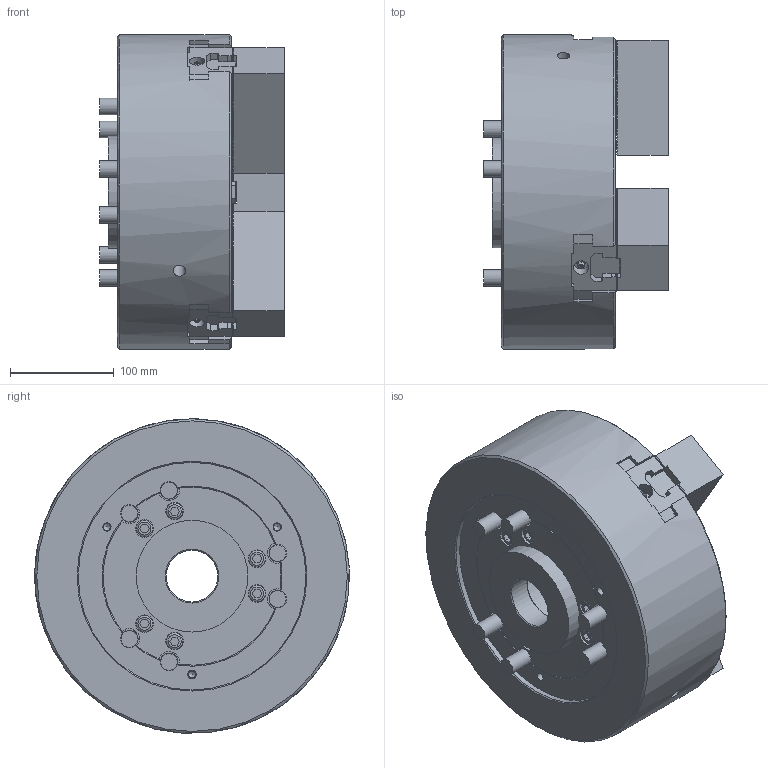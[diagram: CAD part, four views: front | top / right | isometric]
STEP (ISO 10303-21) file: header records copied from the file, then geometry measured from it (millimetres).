
FILE_DESCRIPTION (( 'STEP AP214' ), '1' );
FILE_NAME ('B-212_61P214656-6_OC.STEP', '2020-10-22T04:44:51', ( '' ), ( '' ), 'SwSTEP 2.0', 'SolidWorks 2017', '' );
FILE_SCHEMA (( 'AUTOMOTIVE_DESIGN' ));
Length unit declared in the file: millimetre
Products named in the file (5): B-212_BASE^61P214929-7_クミタテ; Bアナツキ M16×40; 61P318349-4_ソフトジョー; 61P417264-0_T僫僢僩; B-212_61P214656-6_OC
Assembly tree (13 placements, depth 2):
  B-212_61P214656-6_OC
    61P417264-0_T僫僢僩  x3
    61P318349-4_ソフトジョー  x3
    Bアナツキ M16×40  x6
    B-212_BASE^61P214929-7_クミタテ
Bounding box: 178.2 x 303.71 x 303.71 mm (x, y, z)
Volume: 7795771 mm3; surface area: 603815 mm2
Topology: 13 solids, 22 shells, 3948 faces, 11322 edges, 7513 vertices
Faces by surface type: plane 3188, cylinder 539, bspline 113, cone 84, torus 18, sphere 6
Full cylindrical faces by diameter (mm): 1.9 x3, 6 x3, 6.6 x3, 6.8 x3, 8 x3, 10 x6, 10.2 x2, 10.5 x3, 11 x9, 12 x2, 15 x3, 16 x24, 17 x18, 24 x12, 25 x6, 26 x6, 50 x1, 91 x2, 96 x1, 101 x1, 108 x1, 117 x1, 220 x1, 304 x1
Entity records: 97257 total; most frequent: CARTESIAN_POINT 24049, ORIENTED_EDGE 16370, DIRECTION 13294, EDGE_CURVE 8185, LINE 6546, VECTOR 6546, VERTEX_POINT 5497, AXIS2_PLACEMENT_3D 3374
